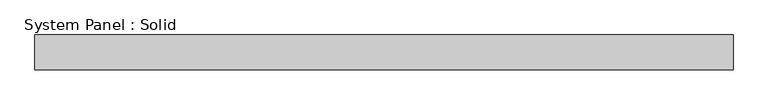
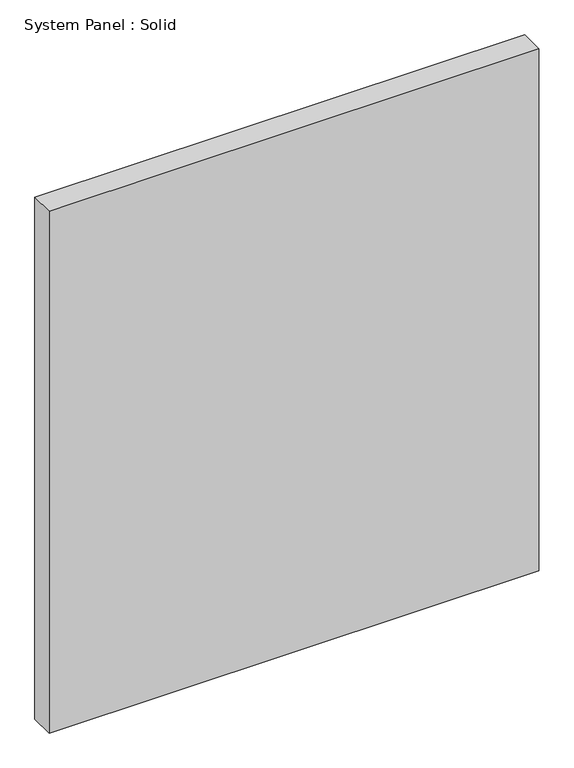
"""IFC4 building model written with IfcOpenShell, lengths in millimetres: plate geometry, System Panel : Solid."""

from ifc_helpers import new_model, si_unit, origin, origin_with_axes, place, context, project, spatial, polyline, outline, extrude, source, transform, mapped, element, save


def system_panel_solid_67032a85(model_context):
    return source(origin(), model_context, "Body", "SweptSolid", [
        extrude(outline(polyline([(634.1717338, -19.05), (-634.1717338, -19.05), (-634.1717338, 44.45), (634.1717338, 44.45), (634.1717338, -19.05)])), origin_with_axes(), (0.0, 0.0, 1.0), 1428.75),
    ])


if __name__ == "__main__":
    model = new_model("IFC4")
    model_context = context("Model", 3, world=origin())
    ifc_project = project(units=[si_unit("LENGTHUNIT", "METRE", prefix="MILLI")], contexts=[model_context])
    site = spatial("IfcSite", under=ifc_project)
    building = spatial("IfcBuilding", under=site)
    placement = place(None, origin())
    system_panel_solid_shape = system_panel_solid_67032a85(model_context)
    element("IfcPlate", 1, ObjectType="System Panel : Solid", at=placement, inside=building, context=model_context, shape_type="MappedRepresentation", body=[
        mapped(system_panel_solid_shape, transform((0.0, 0.0, 0.0), x_axis=(1.0, 0.0, 0.0), y_axis=(0.0, 1.0, 0.0), z_axis=(0.0, 0.0, 1.0))),
    ])
    save(model, "model.ifc")
